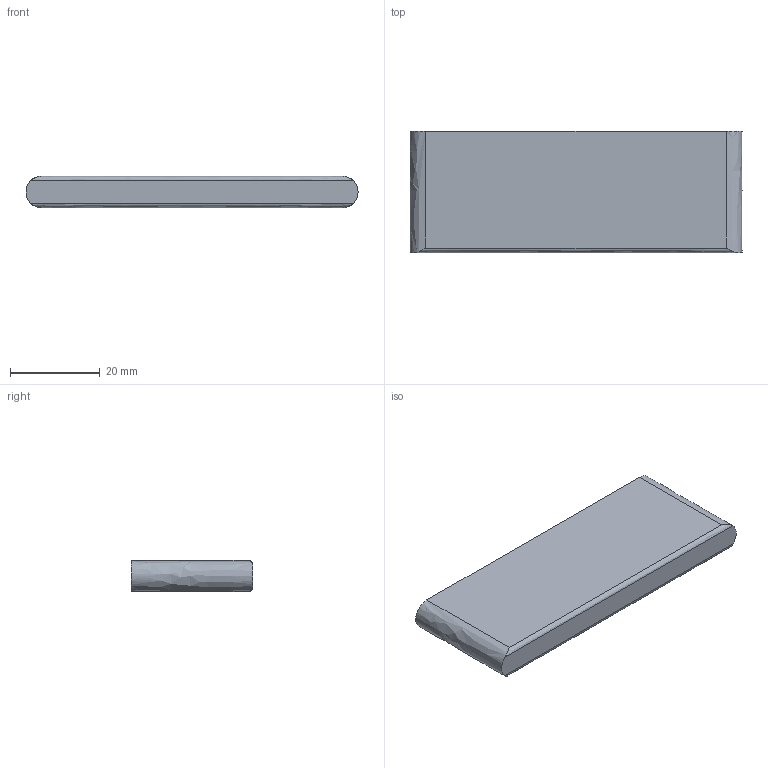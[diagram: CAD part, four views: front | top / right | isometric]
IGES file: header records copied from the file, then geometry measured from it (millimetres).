
Start section: Data from Parasolid IGES Translator 15.0.47, Copyright(c) 2006 Siemens P LM Software. All Rights Reserved.
Global section: file name: 115020.igs; native system:  By UGS Corp.; preprocessor: XPlus GENERIC/IGES 3.0; author: Noname; organization: Noname; date: 20140123.103512; units: millimetre
Bounding box: 74 x 27 x 7 mm (x, y, z)
Surface area: 5651.9 mm2 (no closed solid volume)
Topology: 0 solids, 0 shells, 25 faces, 108 edges, 102 vertices
Faces by surface type: extrusion 13, revolution 12
